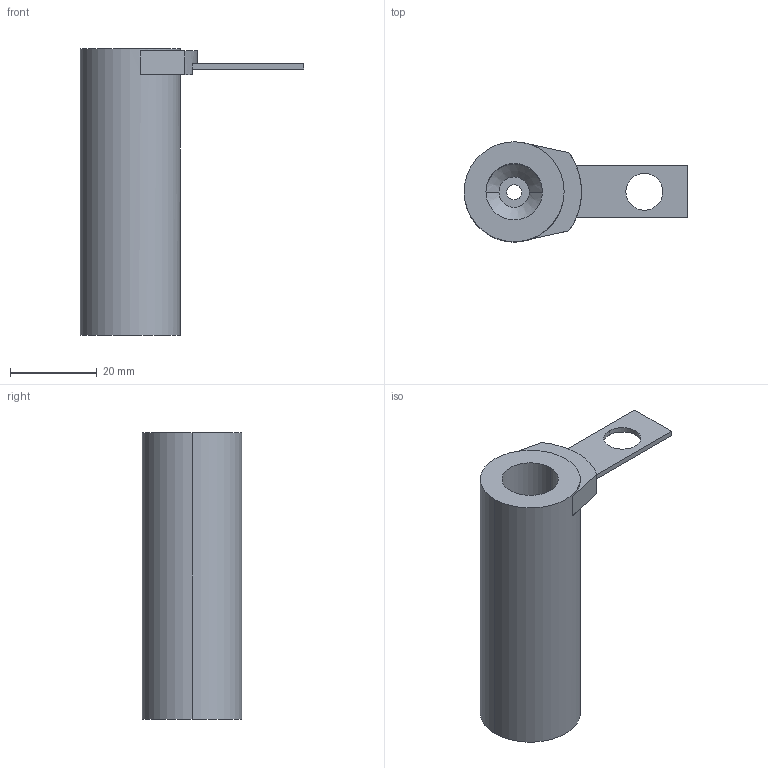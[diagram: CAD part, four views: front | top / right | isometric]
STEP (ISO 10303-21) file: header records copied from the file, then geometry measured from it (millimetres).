
FILE_DESCRIPTION(/* description */ (''),/* implementation_level */ '2;1');
FILE_NAME(/* name */ '3d_tus13-66a_06255_r00.stp',/* time_stamp */ '2011-01-10T14:08:54+09:00',/* author */ ('MISUMI'),/* organization */ (''),/* preprocessor_version */ 'ST-DEVELOPER v11',/* originating_system */ 'UGS - NX 5.0',/* authorisation */ '');
FILE_SCHEMA (('CONFIG_CONTROL_DESIGN'));
Length unit declared in the file: millimetre
Products named in the file (1): 3d_tus13-66a_06255_r00
Bounding box: 51.47 x 23 x 66 mm (x, y, z)
Volume: 20249.5 mm3; surface area: 8937.2 mm2
Topology: 2 solids, 2 shells, 28 faces, 67 edges, 44 vertices
Faces by surface type: plane 17, cylinder 9, cone 2
Entity records: 915 total; most frequent: DIRECTION 153, CARTESIAN_POINT 140, ORIENTED_EDGE 134, EDGE_CURVE 67, AXIS2_PLACEMENT_3D 57, VERTEX_POINT 44, LINE 39, VECTOR 39
